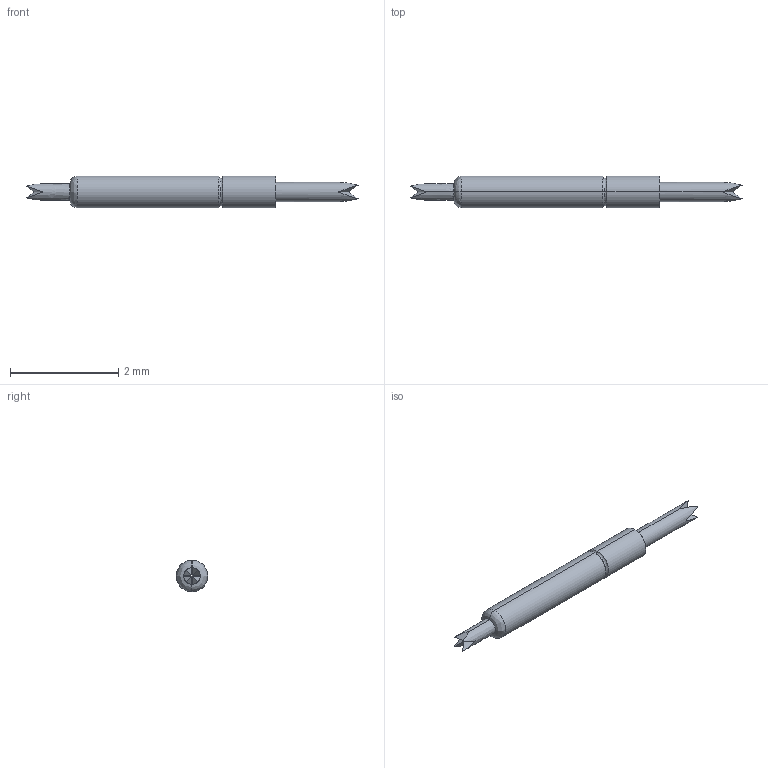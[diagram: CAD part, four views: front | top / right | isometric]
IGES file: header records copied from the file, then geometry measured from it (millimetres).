
Start section: SolidWorks IGES file using analytic representation for surfaces
Global section: file name: Z:\probe solid model mockups\Solidworks models\IGES Files\CSP8-15 IGES files\CSP8-15LL.IGS; native system: SolidWorks 2006 by SolidWorks Corporation; preprocessor: SolidWorks 2006 by SolidWorks Corporation; author: tsakatani; date: 080108.152222; units: inch
Bounding box: 6.15 x 0.58 x 0.58 mm (x, y, z)
Surface area: 9.9 mm2 (no closed solid volume)
Topology: 0 solids, 0 shells, 31 faces, 180 edges, 180 vertices
Faces by surface type: bspline 23, revolution 8
